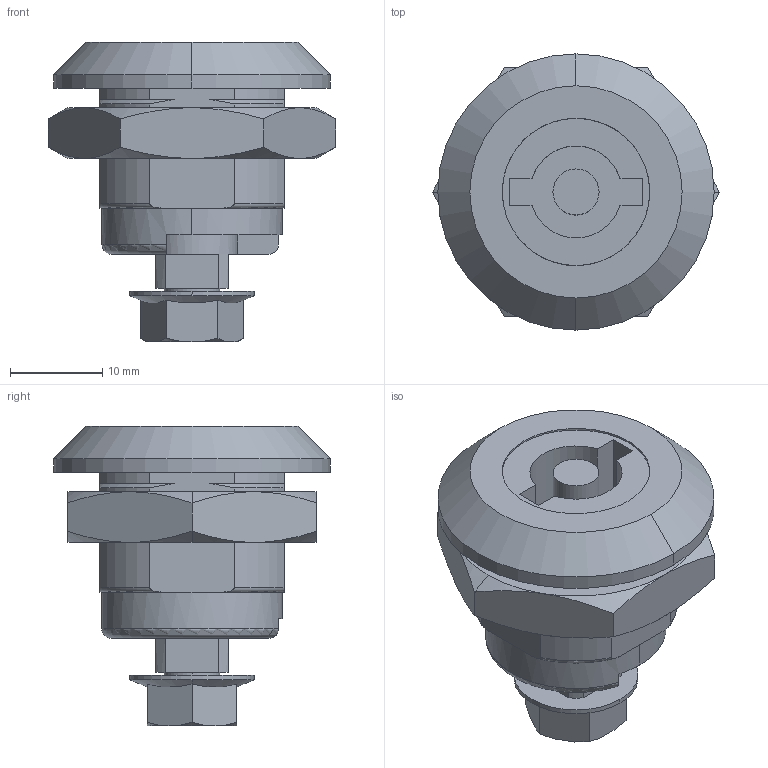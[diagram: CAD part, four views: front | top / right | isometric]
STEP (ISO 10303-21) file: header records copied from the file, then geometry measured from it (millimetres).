
FILE_DESCRIPTION (( 'STEP AP214' ), '1' );
FILE_NAME ('LC 5DB.S.STEP', '2015-11-06T14:34:12', ( '' ), ( '' ), 'SwSTEP 2.0', 'SolidWorks 2012', '' );
FILE_SCHEMA (( 'AUTOMOTIVE_DESIGN' ));
Length unit declared in the file: millimetre
Products named in the file (1): LC 5DB.S
Bounding box: 31.18 x 30 x 32.5 mm (x, y, z)
Volume: 10230.8 mm3; surface area: 6864.1 mm2
Topology: 2 solids, 2 shells, 143 faces, 379 edges, 246 vertices
Faces by surface type: plane 60, cylinder 50, cone 28, torus 5
Entity records: 4735 total; most frequent: CARTESIAN_POINT 1125, ORIENTED_EDGE 758, DIRECTION 744, EDGE_CURVE 379, AXIS2_PLACEMENT_3D 289, VERTEX_POINT 246, LINE 166, VECTOR 166
